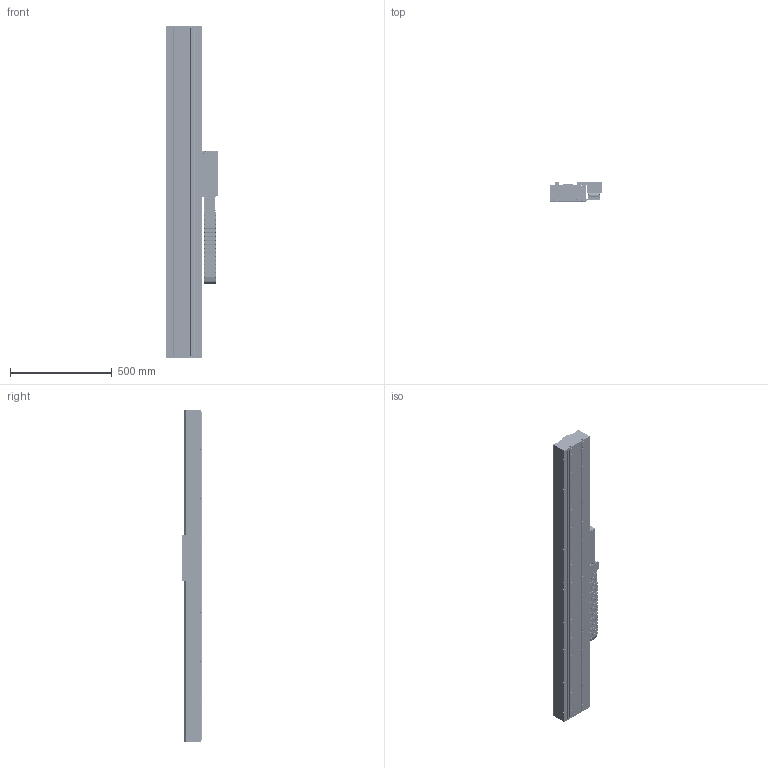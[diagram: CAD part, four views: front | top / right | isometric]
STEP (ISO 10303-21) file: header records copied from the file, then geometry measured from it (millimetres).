
FILE_DESCRIPTION (( 'STEP AP203' ), '1' );
FILE_NAME ('STF35120L-xC1B-Bxx.STEP', '2007-09-17T21:03:33', ( 'Yaskawa' ), ( 'Yaskawa' ), 'SwSTEP 2.0', 'SolidWorks 2007', '' );
FILE_SCHEMA (( 'CONFIG_CONTROL_DESIGN' ));
Products named in the file (64): STF35120 Base_STF35BM-011; Mult-SR15+580LY_011; STF35120 Complete Carriage; RGH22B; STF2035-003 Renishaw Encoder Mount; B18.3.5M - 3 x 0.5 x 6 Socket FCHS  -- 6N_B18.3.5M - 3 x 0.5 x 6 Socket FCHS  -- 6N; STCM-002-R2 Cable Assembly Front; B18.3.1M - 6 x 1.0 x 25 Hex SHCS -- 25CHX_B18.3.1M - 6 x 1.0 x 25 Hex SHCS -- 25CHX; STCM-003 Cable Assembly Bottom; B18.3.1M - 4 x 0.7 x 12 Hex SHCS -- 12CHX_B18.3.1M - 4 x 0.7 x 12 Hex SHCS -- 12CHX; STCM-007 Lower E-Chain Bracket; STF20120L; 07.50.028.0_96; 07.50.028.0_100; 07.50.028.0_101; 07.50.028.0_108; 07.50.028.0_109; 07.50.028.0_116; 07.50.028.0_115; 07.50.028.0_118; 07.50.028.0_123; 07.50.028.0_111; STF35120L-xC1B-Bxx; STF35BM Base_STF35120-011; SGLFM-35756AC; End Stop with Bumper; STF2035-007 End Stop; Bumper-Medium; B18.3.1M - 6 x 1.0 x 16 Hex SHCS -- 16NHX_B18.3.1M - 6 x 1.0 x 16 Hex SHCS -- 16NHX; STF35-120 SSR15W Carriage-R2; STF2035-001C F35-120 Carriage; STF2035-002A-R2 F2035 Carriage Horn; STF2035-005-R2 Cable Router; STF2035-004 Flag; SSR15W Block; SGLFW-35120AP; STCM-R1; STCM-001-R2 Cable Bracket; STCM-004 Cable Assembly Side; STCM-005-R1 Cable Assembly Cover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
Assembly tree (125 placements, depth 4):
  STF35120L-xC1B-Bxx
    STF2035-009-02 Top Cover 2_L
    STF2035-010-02 Side Cover 2_L  x2
    STF20120L
      07.50.028.0_108
      07.50.028.0_104
      07.50.028.0_111  x11
      07.50.028.0_122
      07.50.028.0_98
      07.50.028.0_110
      07.50.028.0_114
      07.50.028.0_105  x9
      07.50.028.0_97
      07.50.028.0_109
      07.50.028.0_100
      07.50.028.0_118
      07.50.028.0_117
      07.50.028.0_99
      07.50.028.0_113
      07.50.028.0_123
      07.50.028.0_116
      07.50.028.0_119
      07.50.028.0_112
      07.50.028.0_115
      07.50.028.0_106
      07.50.028.0_101
      07.50.028.0_102
      07.50.028.0_107
      07.50.028.0_103
      07.50.028.0_120
      07.50.028.0_96
      07.50.028.0_121
    STF35BM Base_STF35120-011
      Mult-SR15+580LY_011  x2
      End Stop with Bumper  x4
        B18.3.1M - 6 x 1.0 x 16 Hex SHCS -- 16NHX_B18.3.1M - 6 x 1.0 x 16 Hex SHCS -- 16NHX
        STF2035-007 End Stop
        Bumper-Medium
      STF35120 Base_STF35BM-011
      SGLFM-35756AC  x2
    STF35120 Complete Carriage
      B18.3.1M - 4 x 0.7 x 12 Hex SHCS -- 12CHX_B18.3.1M - 4 x 0.7 x 12 Hex SHCS -- 12CHX  x18
      B18.3.1M - 6 x 1.0 x 25 Hex SHCS -- 25CHX_B18.3.1M - 6 x 1.0 x 25 Hex SHCS -- 25CHX  x6
      B18.3.4M - 3 x 0.5 x 12 SBHCS --N_B18.3.4M - 3 x 0.5 x 12 SBHCS --N  x3
      STCM-R1
        B18.3.4M - 3 x 0.5 x 12 SBHCS --N_B18.3.4M - 3 x 0.5 x 12 SBHCS --N  x4
        B18.3.5M - 3 x 0.5 x 6 Socket FCHS  -- 6N_B18.3.5M - 3 x 0.5 x 6 Socket FCHS  -- 6N  x6
        STCM-004 Cable Assembly Side
        STCM-005-R1 Cable Assembly Cover
        STCM-003 Cable Assembly Bottom
        STCM-001-R2 Cable Bracket
        STCM-006-R1 Upper E-chain Bracket
        Serial Converter
        STCM-002-R2 Cable Assembly Front
      STF35-120 SSR15W Carriage-R2
        STF2035-002A-R2 F2035 Carriage Horn  x2
        SSR15W Block  x4
        SGLFW-35120AP
        STF2035-003 Renishaw Encoder Mount
        STF2035-001C F35-120 Carriage
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Bounding box: 254.2 x 94.7 x 1629.09 mm (x, y, z)
Volume: 9351829.5 mm3; surface area: 3188951.1 mm2
Topology: 169 solids, 169 shells, 8068 faces, 20527 edges, 12944 vertices
Faces by surface type: plane 4091, cylinder 3081, cone 752, torus 86, bspline 44, sphere 14
Entity records: 147011 total; most frequent: DIRECTION 24811, CARTESIAN_POINT 24138, ORIENTED_EDGE 22798, EDGE_CURVE 11399, AXIS2_PLACEMENT_3D 8777, VERTEX_POINT 7443, VECTOR 7257, LINE 7257
